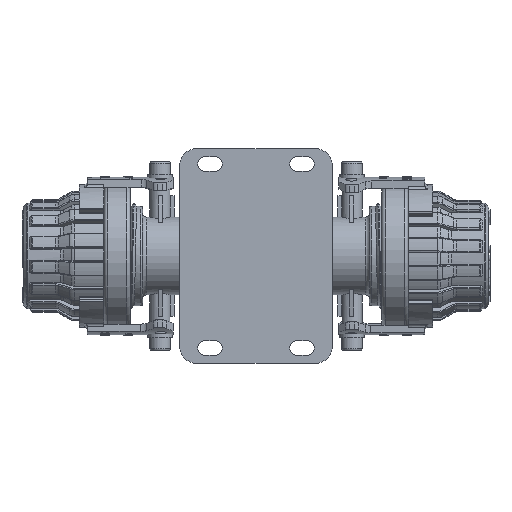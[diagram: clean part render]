
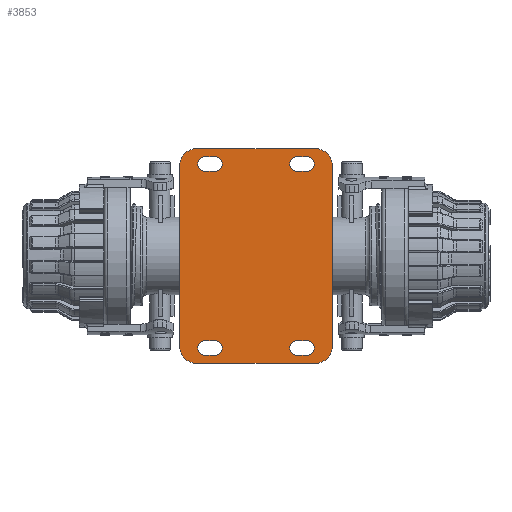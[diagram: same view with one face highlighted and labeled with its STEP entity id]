
A CAD part, front view. The second image highlights one B-rep face of the part: STEP entity #3853.
In plain terms, the highlighted planar face has unit normal (0, -1, 0).
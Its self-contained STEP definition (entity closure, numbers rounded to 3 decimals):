
#3039=FACE_BOUND('',#8499,.T.);
#3040=FACE_BOUND('',#8500,.T.);
#3041=FACE_BOUND('',#8501,.T.);
#3042=FACE_BOUND('',#8502,.T.);
#3043=FACE_BOUND('',#8503,.T.);
#3853=ADVANCED_FACE('',(#3039,#3040,#3041,#3042,#3043),#5876,.F.);
#5876=PLANE('',#35567);
#8499=EDGE_LOOP('',(#16199,#16200,#16201,#16202,#16203,#16204,#16205,#16206));
#8500=EDGE_LOOP('',(#16207,#16208,#16209,#16210));
#8501=EDGE_LOOP('',(#16211,#16212,#16213,#16214));
#8502=EDGE_LOOP('',(#16215,#16216,#16217,#16218));
#8503=EDGE_LOOP('',(#16219,#16220,#16221,#16222));
#10974=LINE('',#47908,#13400);
#10980=LINE('',#47922,#13406);
#10985=LINE('',#47936,#13411);
#10988=LINE('',#47946,#13414);
#10993=LINE('',#47960,#13419);
#10994=LINE('',#47965,#13420);
#11000=LINE('',#47979,#13426);
#11005=LINE('',#47993,#13431);
#11008=LINE('',#48003,#13434);
#11013=LINE('',#48017,#13439);
#11017=LINE('',#48052,#13443);
#11018=LINE('',#48055,#13444);
#13400=VECTOR('',#39041,1.);
#13406=VECTOR('',#39049,1.);
#13411=VECTOR('',#39062,1.);
#13414=VECTOR('',#39073,1.);
#13419=VECTOR('',#39086,1.);
#13420=VECTOR('',#39095,1.);
#13426=VECTOR('',#39103,1.);
#13431=VECTOR('',#39116,1.);
#13434=VECTOR('',#39127,1.);
#13439=VECTOR('',#39140,1.);
#13443=VECTOR('',#39182,1.);
#13444=VECTOR('',#39185,1.);
#16199=ORIENTED_EDGE('',*,*,#29244,.F.);
#16200=ORIENTED_EDGE('',*,*,#29245,.F.);
#16201=ORIENTED_EDGE('',*,*,#29176,.F.);
#16202=ORIENTED_EDGE('',*,*,#29235,.F.);
#16203=ORIENTED_EDGE('',*,*,#29246,.F.);
#16204=ORIENTED_EDGE('',*,*,#29238,.F.);
#16205=ORIENTED_EDGE('',*,*,#29204,.F.);
#16206=ORIENTED_EDGE('',*,*,#29241,.F.);
#16207=ORIENTED_EDGE('',*,*,#29229,.T.);
#16208=ORIENTED_EDGE('',*,*,#29231,.T.);
#16209=ORIENTED_EDGE('',*,*,#29222,.T.);
#16210=ORIENTED_EDGE('',*,*,#29226,.T.);
#16211=ORIENTED_EDGE('',*,*,#29201,.T.);
#16212=ORIENTED_EDGE('',*,*,#29203,.T.);
#16213=ORIENTED_EDGE('',*,*,#29194,.T.);
#16214=ORIENTED_EDGE('',*,*,#29198,.T.);
#16215=ORIENTED_EDGE('',*,*,#29217,.T.);
#16216=ORIENTED_EDGE('',*,*,#29219,.T.);
#16217=ORIENTED_EDGE('',*,*,#29210,.T.);
#16218=ORIENTED_EDGE('',*,*,#29214,.T.);
#16219=ORIENTED_EDGE('',*,*,#29189,.T.);
#16220=ORIENTED_EDGE('',*,*,#29191,.T.);
#16221=ORIENTED_EDGE('',*,*,#29182,.T.);
#16222=ORIENTED_EDGE('',*,*,#29186,.T.);
#25817=VERTEX_POINT('',#47909);
#25818=VERTEX_POINT('',#47910);
#25823=VERTEX_POINT('',#47921);
#25824=VERTEX_POINT('',#47923);
#25826=VERTEX_POINT('',#47929);
#25828=VERTEX_POINT('',#47935);
#25831=VERTEX_POINT('',#47945);
#25832=VERTEX_POINT('',#47947);
#25834=VERTEX_POINT('',#47953);
#25836=VERTEX_POINT('',#47959);
#25837=VERTEX_POINT('',#47966);
#25838=VERTEX_POINT('',#47967);
#25843=VERTEX_POINT('',#47978);
#25844=VERTEX_POINT('',#47980);
#25846=VERTEX_POINT('',#47986);
#25848=VERTEX_POINT('',#47992);
#25851=VERTEX_POINT('',#48002);
#25852=VERTEX_POINT('',#48004);
#25854=VERTEX_POINT('',#48010);
#25856=VERTEX_POINT('',#48016);
#25863=VERTEX_POINT('',#48035);
#25865=VERTEX_POINT('',#48041);
#25867=VERTEX_POINT('',#48047);
#25869=VERTEX_POINT('',#48053);
#29176=EDGE_CURVE('',#25817,#25818,#10974,.T.);
#29182=EDGE_CURVE('',#25824,#25823,#10980,.T.);
#29186=EDGE_CURVE('',#25823,#25826,#34017,.T.);
#29189=EDGE_CURVE('',#25826,#25828,#10985,.T.);
#29191=EDGE_CURVE('',#25828,#25824,#34019,.T.);
#29194=EDGE_CURVE('',#25832,#25831,#10988,.T.);
#29198=EDGE_CURVE('',#25831,#25834,#34021,.T.);
#29201=EDGE_CURVE('',#25834,#25836,#10993,.T.);
#29203=EDGE_CURVE('',#25836,#25832,#34023,.T.);
#29204=EDGE_CURVE('',#25837,#25838,#10994,.T.);
#29210=EDGE_CURVE('',#25844,#25843,#11000,.T.);
#29214=EDGE_CURVE('',#25843,#25846,#34025,.T.);
#29217=EDGE_CURVE('',#25846,#25848,#11005,.T.);
#29219=EDGE_CURVE('',#25848,#25844,#34027,.T.);
#29222=EDGE_CURVE('',#25852,#25851,#11008,.T.);
#29226=EDGE_CURVE('',#25851,#25854,#34029,.T.);
#29229=EDGE_CURVE('',#25854,#25856,#11013,.T.);
#29231=EDGE_CURVE('',#25856,#25852,#34031,.T.);
#29235=EDGE_CURVE('',#25863,#25817,#34035,.T.);
#29238=EDGE_CURVE('',#25838,#25865,#34037,.T.);
#29241=EDGE_CURVE('',#25867,#25837,#34039,.T.);
#29244=EDGE_CURVE('',#25869,#25867,#11017,.T.);
#29245=EDGE_CURVE('',#25818,#25869,#34041,.T.);
#29246=EDGE_CURVE('',#25865,#25863,#11018,.T.);
#34017=CIRCLE('',#35520,3.5);
#34019=CIRCLE('',#35524,3.5);
#34021=CIRCLE('',#35528,3.5);
#34023=CIRCLE('',#35532,3.5);
#34025=CIRCLE('',#35537,3.5);
#34027=CIRCLE('',#35541,3.5);
#34029=CIRCLE('',#35545,3.5);
#34031=CIRCLE('',#35549,3.5);
#34035=CIRCLE('',#35557,8.5);
#34037=CIRCLE('',#35560,8.5);
#34039=CIRCLE('',#35563,8.5);
#34041=CIRCLE('',#35566,8.5);
#35520=AXIS2_PLACEMENT_3D('',#47930,#39056,#39057);
#35524=AXIS2_PLACEMENT_3D('',#47939,#39067,#39068);
#35528=AXIS2_PLACEMENT_3D('',#47954,#39080,#39081);
#35532=AXIS2_PLACEMENT_3D('',#47963,#39091,#39092);
#35537=AXIS2_PLACEMENT_3D('',#47987,#39110,#39111);
#35541=AXIS2_PLACEMENT_3D('',#47996,#39121,#39122);
#35545=AXIS2_PLACEMENT_3D('',#48011,#39134,#39135);
#35549=AXIS2_PLACEMENT_3D('',#48020,#39145,#39146);
#35557=AXIS2_PLACEMENT_3D('',#48034,#39161,#39162);
#35560=AXIS2_PLACEMENT_3D('',#48040,#39168,#39169);
#35563=AXIS2_PLACEMENT_3D('',#48046,#39175,#39176);
#35566=AXIS2_PLACEMENT_3D('',#48054,#39183,#39184);
#35567=AXIS2_PLACEMENT_3D('',#48056,#39186,#39187);
#39041=DIRECTION('',(-1.,0.,0.));
#39049=DIRECTION('',(1.,0.,0.));
#39056=DIRECTION('',(0.,1.,0.));
#39057=DIRECTION('',(0.,0.,1.));
#39062=DIRECTION('',(-1.,0.,0.));
#39067=DIRECTION('',(0.,1.,0.));
#39068=DIRECTION('',(0.,0.,1.));
#39073=DIRECTION('',(1.,0.,0.));
#39080=DIRECTION('',(0.,1.,0.));
#39081=DIRECTION('',(0.,0.,-1.));
#39086=DIRECTION('',(-1.,0.,0.));
#39091=DIRECTION('',(0.,1.,0.));
#39092=DIRECTION('',(0.,0.,-1.));
#39095=DIRECTION('',(1.,0.,0.));
#39103=DIRECTION('',(-1.,0.,0.));
#39110=DIRECTION('',(0.,1.,0.));
#39111=DIRECTION('',(0.,0.,1.));
#39116=DIRECTION('',(1.,0.,0.));
#39121=DIRECTION('',(0.,1.,0.));
#39122=DIRECTION('',(0.,0.,1.));
#39127=DIRECTION('',(-1.,0.,0.));
#39134=DIRECTION('',(0.,1.,0.));
#39135=DIRECTION('',(0.,0.,-1.));
#39140=DIRECTION('',(1.,0.,0.));
#39145=DIRECTION('',(0.,1.,0.));
#39146=DIRECTION('',(0.,0.,-1.));
#39161=DIRECTION('',(0.,1.,0.));
#39162=DIRECTION('',(0.,0.,1.));
#39168=DIRECTION('',(0.,1.,0.));
#39169=DIRECTION('',(0.,0.,-1.));
#39175=DIRECTION('',(0.,1.,0.));
#39176=DIRECTION('',(0.,0.,-1.));
#39182=DIRECTION('',(0.,0.,1.));
#39183=DIRECTION('',(0.,1.,0.));
#39184=DIRECTION('',(0.,0.,1.));
#39185=DIRECTION('',(0.,0.,-1.));
#39186=DIRECTION('',(0.,1.,0.));
#39187=DIRECTION('',(0.,0.,-1.));
#47908=CARTESIAN_POINT('',(29.,0.,-52.5));
#47909=CARTESIAN_POINT('',(29.,0.,-52.5));
#47910=CARTESIAN_POINT('',(-29.,0.,-52.5));
#47921=CARTESIAN_POINT('',(-20.,0.,-41.5));
#47922=CARTESIAN_POINT('',(-25.,0.,-41.5));
#47923=CARTESIAN_POINT('',(-25.,0.,-41.5));
#47929=CARTESIAN_POINT('',(-20.,0.,-48.5));
#47930=CARTESIAN_POINT('',(-20.,0.,-45.));
#47935=CARTESIAN_POINT('',(-25.,0.,-48.5));
#47936=CARTESIAN_POINT('',(-20.,0.,-48.5));
#47939=CARTESIAN_POINT('',(-25.,0.,-45.));
#47945=CARTESIAN_POINT('',(25.,0.,-41.5));
#47946=CARTESIAN_POINT('',(20.,0.,-41.5));
#47947=CARTESIAN_POINT('',(20.,0.,-41.5));
#47953=CARTESIAN_POINT('',(25.,0.,-48.5));
#47954=CARTESIAN_POINT('',(25.,0.,-45.));
#47959=CARTESIAN_POINT('',(20.,0.,-48.5));
#47960=CARTESIAN_POINT('',(25.,0.,-48.5));
#47963=CARTESIAN_POINT('',(20.,0.,-45.));
#47965=CARTESIAN_POINT('',(-29.,0.,52.5));
#47966=CARTESIAN_POINT('',(-29.,0.,52.5));
#47967=CARTESIAN_POINT('',(29.,0.,52.5));
#47978=CARTESIAN_POINT('',(20.,0.,41.5));
#47979=CARTESIAN_POINT('',(25.,0.,41.5));
#47980=CARTESIAN_POINT('',(25.,0.,41.5));
#47986=CARTESIAN_POINT('',(20.,0.,48.5));
#47987=CARTESIAN_POINT('',(20.,0.,45.));
#47992=CARTESIAN_POINT('',(25.,0.,48.5));
#47993=CARTESIAN_POINT('',(20.,0.,48.5));
#47996=CARTESIAN_POINT('',(25.,0.,45.));
#48002=CARTESIAN_POINT('',(-25.,0.,41.5));
#48003=CARTESIAN_POINT('',(-20.,0.,41.5));
#48004=CARTESIAN_POINT('',(-20.,0.,41.5));
#48010=CARTESIAN_POINT('',(-25.,0.,48.5));
#48011=CARTESIAN_POINT('',(-25.,0.,45.));
#48016=CARTESIAN_POINT('',(-20.,0.,48.5));
#48017=CARTESIAN_POINT('',(-25.,0.,48.5));
#48020=CARTESIAN_POINT('',(-20.,0.,45.));
#48034=CARTESIAN_POINT('',(29.,0.,-44.));
#48035=CARTESIAN_POINT('',(37.5,0.,-44.));
#48040=CARTESIAN_POINT('',(29.,0.,44.));
#48041=CARTESIAN_POINT('',(37.5,0.,44.));
#48046=CARTESIAN_POINT('',(-29.,0.,44.));
#48047=CARTESIAN_POINT('',(-37.5,0.,44.));
#48052=CARTESIAN_POINT('',(-37.5,0.,-44.));
#48053=CARTESIAN_POINT('',(-37.5,0.,-44.));
#48054=CARTESIAN_POINT('',(-29.,0.,-44.));
#48055=CARTESIAN_POINT('',(37.5,0.,44.));
#48056=CARTESIAN_POINT('',(-29.,0.,-29.));
